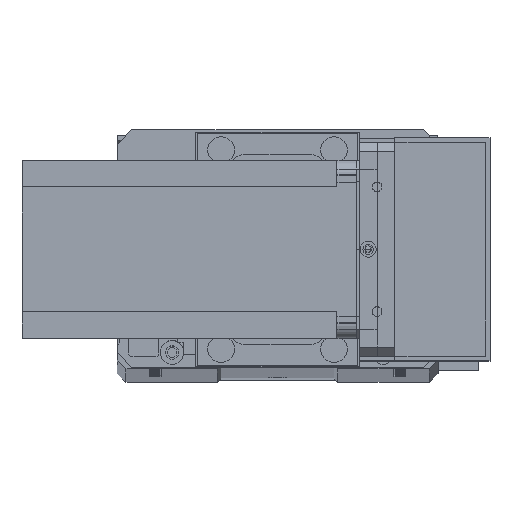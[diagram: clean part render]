
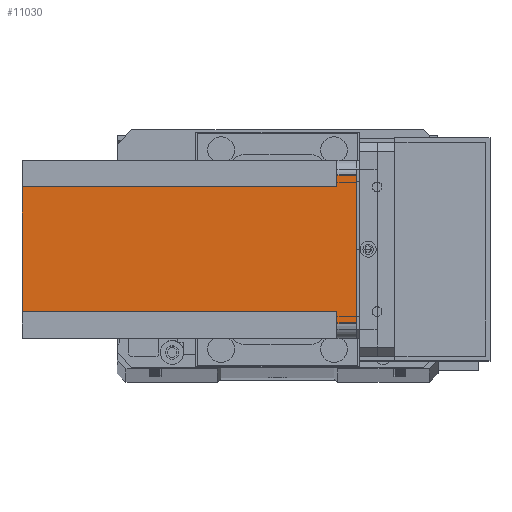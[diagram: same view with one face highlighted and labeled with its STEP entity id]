
A CAD part, top view. The second image highlights one B-rep face of the part: STEP entity #11030.
In plain terms, the highlighted planar face has unit normal (0, 0, 1) as drawn and (1, 0, 0) by its records, which use the part's own axes.
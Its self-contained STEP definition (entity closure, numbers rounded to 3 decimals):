
#801 = VECTOR ( 'NONE', #23342, 1000. ) ;
#1645 = LINE ( 'NONE', #26023, #801 ) ;
#3291 = EDGE_CURVE ( 'NONE', #12504, #14488, #16301, .T. ) ;
#3435 = EDGE_CURVE ( 'NONE', #12504, #13321, #26237, .T. ) ;
#4527 = ORIENTED_EDGE ( 'NONE', *, *, #32570, .F. ) ;
#4874 = ORIENTED_EDGE ( 'NONE', *, *, #3435, .T. ) ;
#5200 = ORIENTED_EDGE ( 'NONE', *, *, #22631, .F. ) ;
#5548 = PLANE ( 'NONE',  #13690 ) ;
#5595 = EDGE_CURVE ( 'NONE', #7082, #27909, #24815, .T. ) ;
#6384 = DIRECTION ( 'NONE',  ( 0., 0., 1. ) ) ;
#6749 = CARTESIAN_POINT ( 'NONE',  ( 60., 5., 0. ) ) ;
#6798 = CARTESIAN_POINT ( 'NONE',  ( 60., 51., -112.5 ) ) ;
#7082 = VERTEX_POINT ( 'NONE', #32063 ) ;
#8270 = DIRECTION ( 'NONE',  ( 1., 0., 0. ) ) ;
#8389 = VERTEX_POINT ( 'NONE', #32880 ) ;
#8645 = EDGE_CURVE ( 'NONE', #14488, #19721, #1645, .T. ) ;
#8727 = ORIENTED_EDGE ( 'NONE', *, *, #29415, .T. ) ;
#9531 = DIRECTION ( 'NONE',  ( 0., 0., -1. ) ) ;
#9652 = CARTESIAN_POINT ( 'NONE',  ( 60., 9., -6.5 ) ) ;
#9985 = VECTOR ( 'NONE', #14444, 1000. ) ;
#10445 = CARTESIAN_POINT ( 'NONE',  ( 60., 60., -6.5 ) ) ;
#10972 = VECTOR ( 'NONE', #9531, 1000. ) ;
#11030 = ADVANCED_FACE ( 'NONE', ( #25214 ), #5548, .T. ) ;
#11830 = CARTESIAN_POINT ( 'NONE',  ( 60., 0., 0. ) ) ;
#12172 = VECTOR ( 'NONE', #17666, 1000. ) ;
#12504 = VERTEX_POINT ( 'NONE', #33249 ) ;
#13088 = DIRECTION ( 'NONE',  ( 0., -1., 0. ) ) ;
#13321 = VERTEX_POINT ( 'NONE', #28705 ) ;
#13690 = AXIS2_PLACEMENT_3D ( 'NONE', #21479, #8270, #26807 ) ;
#14444 = DIRECTION ( 'NONE',  ( 0., 1., 0. ) ) ;
#14488 = VERTEX_POINT ( 'NONE', #9652 ) ;
#14757 = ORIENTED_EDGE ( 'NONE', *, *, #3291, .F. ) ;
#15452 = DIRECTION ( 'NONE',  ( 0., 0., 1. ) ) ;
#16301 = LINE ( 'NONE', #30191, #29562 ) ;
#16365 = EDGE_CURVE ( 'NONE', #24946, #19721, #34172, .T. ) ;
#17666 = DIRECTION ( 'NONE',  ( 0., 1., 0. ) ) ;
#17785 = VECTOR ( 'NONE', #13088, 1000. ) ;
#19447 = DIRECTION ( 'NONE',  ( 0., 0., -1. ) ) ;
#19639 = LINE ( 'NONE', #31316, #25875 ) ;
#19702 = ORIENTED_EDGE ( 'NONE', *, *, #16365, .T. ) ;
#19721 = VERTEX_POINT ( 'NONE', #28643 ) ;
#21479 = CARTESIAN_POINT ( 'NONE',  ( 60., 0., -112.5 ) ) ;
#22631 = EDGE_CURVE ( 'NONE', #27909, #13321, #25841, .T. ) ;
#22666 = ORIENTED_EDGE ( 'NONE', *, *, #5595, .F. ) ;
#23342 = DIRECTION ( 'NONE',  ( 0., -1., 0. ) ) ;
#24815 = LINE ( 'NONE', #10445, #17785 ) ;
#24946 = VERTEX_POINT ( 'NONE', #6749 ) ;
#25214 = FACE_OUTER_BOUND ( 'NONE', #31612, .T. ) ;
#25841 = LINE ( 'NONE', #6798, #10972 ) ;
#25875 = VECTOR ( 'NONE', #15452, 1000. ) ;
#26023 = CARTESIAN_POINT ( 'NONE',  ( 60., 0., -6.5 ) ) ;
#26237 = LINE ( 'NONE', #33531, #12172 ) ;
#26284 = VECTOR ( 'NONE', #19447, 1000. ) ;
#26807 = DIRECTION ( 'NONE',  ( 0., 1., 0. ) ) ;
#27909 = VERTEX_POINT ( 'NONE', #31588 ) ;
#28355 = ORIENTED_EDGE ( 'NONE', *, *, #8645, .F. ) ;
#28643 = CARTESIAN_POINT ( 'NONE',  ( 60., 5., -6.5 ) ) ;
#28705 = CARTESIAN_POINT ( 'NONE',  ( 60., 51., -112.5 ) ) ;
#29415 = EDGE_CURVE ( 'NONE', #7082, #8389, #19639, .T. ) ;
#29562 = VECTOR ( 'NONE', #6384, 1000. ) ;
#30027 = CARTESIAN_POINT ( 'NONE',  ( 60., 5., -112.5 ) ) ;
#30191 = CARTESIAN_POINT ( 'NONE',  ( 60., 9., -112.5 ) ) ;
#31113 = LINE ( 'NONE', #11830, #9985 ) ;
#31316 = CARTESIAN_POINT ( 'NONE',  ( 60., 55., -112.5 ) ) ;
#31588 = CARTESIAN_POINT ( 'NONE',  ( 60., 51., -6.5 ) ) ;
#31612 = EDGE_LOOP ( 'NONE', ( #22666, #8727, #4527, #19702, #28355, #14757, #4874, #5200 ) ) ;
#32063 = CARTESIAN_POINT ( 'NONE',  ( 60., 55., -6.5 ) ) ;
#32570 = EDGE_CURVE ( 'NONE', #24946, #8389, #31113, .T. ) ;
#32880 = CARTESIAN_POINT ( 'NONE',  ( 60., 55., 0. ) ) ;
#33249 = CARTESIAN_POINT ( 'NONE',  ( 60., 9., -112.5 ) ) ;
#33531 = CARTESIAN_POINT ( 'NONE',  ( 60., 0., -112.5 ) ) ;
#34172 = LINE ( 'NONE', #30027, #26284 ) ;
